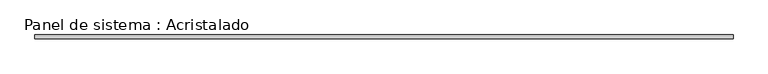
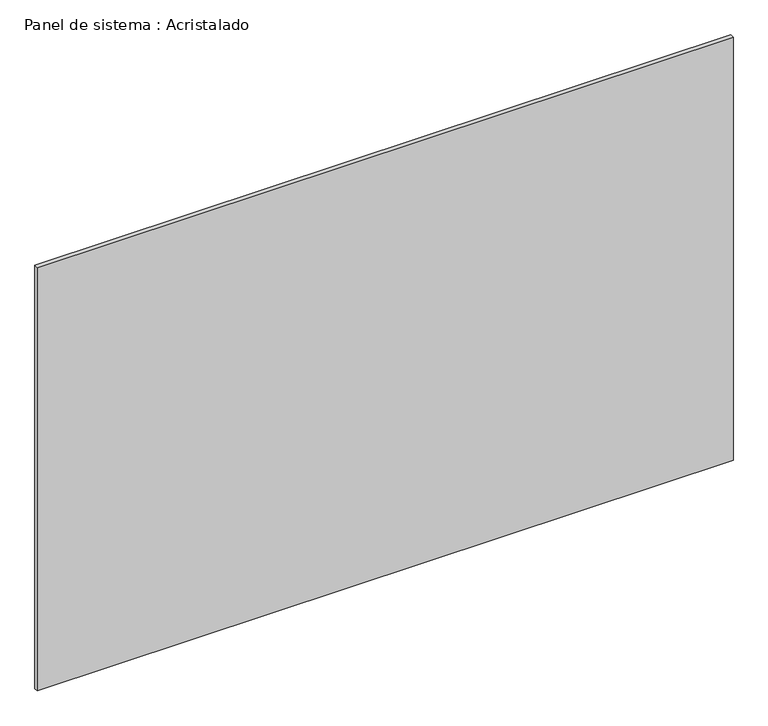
"""IFC4 building model written with IfcOpenShell, lengths in millimetres: plate geometry, Panel de sistema : Acristalado."""

from ifc_helpers import new_model, si_unit, origin, origin_with_axes, place, context, project, spatial, polyline, outline, extrude, source, transform, mapped, element, save


def panel_de_sistema_acristalado_2634ce95(model_context):
    return source(origin(), model_context, "Body", "SweptSolid", [
        extrude(outline(polyline([(1788.978793, -10.0), (-1788.978793, -10.0), (-1788.978793, 10.0), (1788.978793, 10.0), (1788.978793, -10.0)])), origin_with_axes(), (0.0, 0.0, 1.0), 2300.0),
    ])


if __name__ == "__main__":
    model = new_model("IFC4")
    model_context = context("Model", 3, world=origin())
    ifc_project = project(units=[si_unit("LENGTHUNIT", "METRE", prefix="MILLI")], contexts=[model_context])
    site = spatial("IfcSite", under=ifc_project)
    building = spatial("IfcBuilding", under=site)
    placement = place(None, origin())
    panel_de_sistema_acristalado_shape = panel_de_sistema_acristalado_2634ce95(model_context)
    element("IfcPlate", 1, ObjectType="Panel de sistema : Acristalado", at=placement, inside=building, context=model_context, shape_type="MappedRepresentation", body=[
        mapped(panel_de_sistema_acristalado_shape, transform((0.0, 0.0, 0.0), x_axis=(1.0, 0.0, 0.0), y_axis=(0.0, 1.0, 0.0), z_axis=(0.0, 0.0, 1.0))),
    ])
    save(model, "model.ifc")
